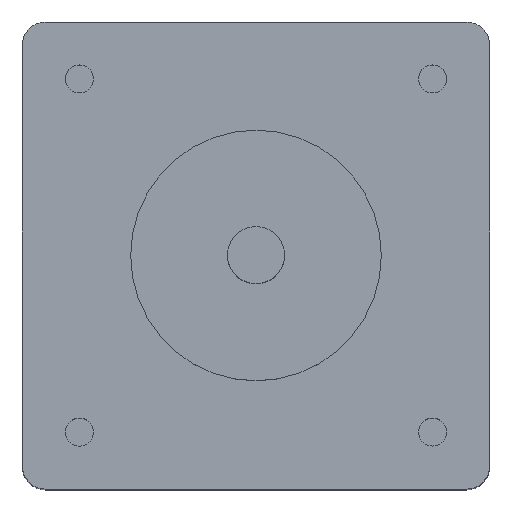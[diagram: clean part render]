
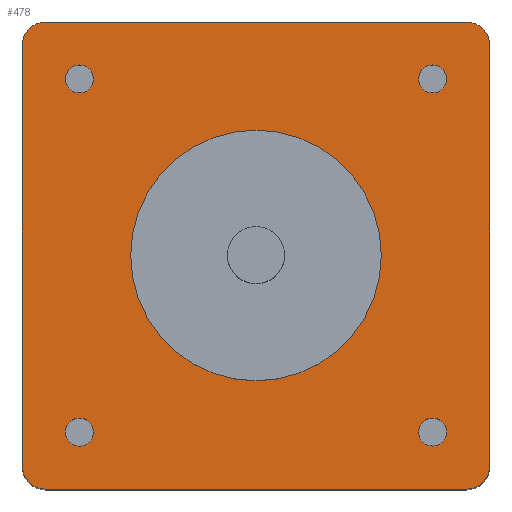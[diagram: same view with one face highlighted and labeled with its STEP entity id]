
A CAD part, top view. The second image highlights one B-rep face of the part: STEP entity #478.
In plain terms, the highlighted planar face has unit normal (0, 0, 1).
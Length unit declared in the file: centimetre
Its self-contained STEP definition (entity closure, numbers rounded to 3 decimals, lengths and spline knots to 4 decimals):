
#189=VERTEX_POINT('',#1763);
#190=VERTEX_POINT('',#1765);
#191=VERTEX_POINT('',#1769);
#192=VERTEX_POINT('',#1773);
#193=VERTEX_POINT('',#1777);
#195=VERTEX_POINT('',#1784);
#197=VERTEX_POINT('',#1790);
#199=VERTEX_POINT('',#1796);
#201=VERTEX_POINT('',#1802);
#205=VERTEX_POINT('',#1814);
#206=VERTEX_POINT('',#1818);
#207=VERTEX_POINT('',#1822);
#208=VERTEX_POINT('',#1826);
#234=EDGE_CURVE('',#189,#190,#609,.T.);
#237=EDGE_CURVE('',#191,#189,#670,.T.);
#239=EDGE_CURVE('',#192,#191,#610,.T.);
#241=EDGE_CURVE('',#193,#192,#673,.T.);
#243=EDGE_CURVE('',#195,#195,#612,.T.);
#245=EDGE_CURVE('',#197,#197,#614,.T.);
#247=EDGE_CURVE('',#199,#199,#616,.T.);
#249=EDGE_CURVE('',#201,#201,#618,.T.);
#253=EDGE_CURVE('',#205,#205,#622,.T.);
#254=EDGE_CURVE('',#190,#206,#674,.T.);
#256=EDGE_CURVE('',#206,#207,#623,.T.);
#258=EDGE_CURVE('',#207,#208,#677,.T.);
#260=EDGE_CURVE('',#208,#193,#624,.T.);
#352=ORIENTED_EDGE('',*,*,#243,.T.);
#353=ORIENTED_EDGE('',*,*,#245,.T.);
#354=ORIENTED_EDGE('',*,*,#247,.T.);
#355=ORIENTED_EDGE('',*,*,#249,.T.);
#356=ORIENTED_EDGE('',*,*,#253,.T.);
#357=ORIENTED_EDGE('',*,*,#239,.F.);
#358=ORIENTED_EDGE('',*,*,#241,.F.);
#359=ORIENTED_EDGE('',*,*,#260,.F.);
#360=ORIENTED_EDGE('',*,*,#258,.F.);
#361=ORIENTED_EDGE('',*,*,#256,.F.);
#362=ORIENTED_EDGE('',*,*,#254,.F.);
#363=ORIENTED_EDGE('',*,*,#234,.F.);
#364=ORIENTED_EDGE('',*,*,#237,.F.);
#401=EDGE_LOOP('',(#352));
#402=EDGE_LOOP('',(#353));
#403=EDGE_LOOP('',(#354));
#404=EDGE_LOOP('',(#355));
#405=EDGE_LOOP('',(#356));
#406=EDGE_LOOP('',(#357,#358,#359,#360,#361,#362,#363,#364));
#443=FACE_BOUND('',#401,.T.);
#444=FACE_BOUND('',#402,.T.);
#445=FACE_BOUND('',#403,.T.);
#446=FACE_BOUND('',#404,.T.);
#447=FACE_BOUND('',#405,.T.);
#448=FACE_BOUND('',#406,.T.);
#478=ADVANCED_FACE('',(#443,#444,#445,#446,#447,#448),#1323,.T.);
#609=CIRCLE('',#1211,0.2);
#610=CIRCLE('',#1214,0.2);
#612=CIRCLE('',#1219,0.123);
#614=CIRCLE('',#1223,0.123);
#616=CIRCLE('',#1227,0.123);
#618=CIRCLE('',#1231,0.123);
#622=CIRCLE('',#1239,1.1);
#623=CIRCLE('',#1243,0.2);
#624=CIRCLE('',#1246,0.2);
#670=LINE('',#1770,#1295);
#673=LINE('',#1778,#1298);
#674=LINE('',#1817,#1299);
#677=LINE('',#1825,#1302);
#1211=AXIS2_PLACEMENT_3D('',#1764,#1488,#1489);
#1214=AXIS2_PLACEMENT_3D('',#1774,#1497,#1498);
#1219=AXIS2_PLACEMENT_3D('',#1783,#1507,#1508);
#1223=AXIS2_PLACEMENT_3D('',#1789,#1514,#1515);
#1227=AXIS2_PLACEMENT_3D('',#1795,#1521,#1522);
#1231=AXIS2_PLACEMENT_3D('',#1801,#1528,#1529);
#1239=AXIS2_PLACEMENT_3D('',#1813,#1542,#1543);
#1243=AXIS2_PLACEMENT_3D('',#1821,#1550,#1551);
#1246=AXIS2_PLACEMENT_3D('',#1829,#1558,#1559);
#1247=AXIS2_PLACEMENT_3D('',#1830,#1560,$);
#1295=VECTOR('',#1493,1.);
#1298=VECTOR('',#1501,1.);
#1299=VECTOR('',#1546,1.);
#1302=VECTOR('',#1554,1.);
#1323=PLANE('',#1247);
#1488=DIRECTION('',(0.,0.,-1.));
#1489=DIRECTION('',(0.2,0.,0.));
#1493=DIRECTION('',(-1.,0.,0.));
#1497=DIRECTION('',(0.,0.,-1.));
#1498=DIRECTION('',(0.2,0.,0.));
#1501=DIRECTION('',(0.,-1.,0.));
#1507=DIRECTION('',(0.,0.,-1.));
#1508=DIRECTION('',(0.,0.123,0.));
#1514=DIRECTION('',(0.,0.,-1.));
#1515=DIRECTION('',(0.,0.123,0.));
#1521=DIRECTION('',(0.,0.,-1.));
#1522=DIRECTION('',(0.,0.123,0.));
#1528=DIRECTION('',(0.,0.,-1.));
#1529=DIRECTION('',(0.,0.123,0.));
#1542=DIRECTION('',(0.,0.,-1.));
#1543=DIRECTION('',(1.1,0.,0.));
#1546=DIRECTION('',(0.,1.,0.));
#1550=DIRECTION('',(0.,0.,-1.));
#1551=DIRECTION('',(0.2,0.,0.));
#1554=DIRECTION('',(1.,0.,0.));
#1558=DIRECTION('',(0.,0.,-1.));
#1559=DIRECTION('',(0.2,0.,0.));
#1560=DIRECTION('',(0.,0.,1.));
#1763=CARTESIAN_POINT('',(-3.9,0.,4.8));
#1764=CARTESIAN_POINT('',(-3.9,0.2,4.8));
#1765=CARTESIAN_POINT('',(-4.1,0.2,4.8));
#1769=CARTESIAN_POINT('',(-0.2,0.,4.8));
#1770=CARTESIAN_POINT('',(-3.9,0.,4.8));
#1773=CARTESIAN_POINT('',(0.,0.2,4.8));
#1774=CARTESIAN_POINT('',(-0.2,0.2,4.8));
#1777=CARTESIAN_POINT('',(0.,3.9,4.8));
#1778=CARTESIAN_POINT('',(0.,0.2,4.8));
#1783=CARTESIAN_POINT('',(-3.6,0.5,4.8));
#1784=CARTESIAN_POINT('',(-3.6,0.6229,4.8));
#1789=CARTESIAN_POINT('',(-0.5,0.5,4.8));
#1790=CARTESIAN_POINT('',(-0.5,0.623,4.8));
#1795=CARTESIAN_POINT('',(-0.5,3.6,4.8));
#1796=CARTESIAN_POINT('',(-0.5,3.723,4.8));
#1801=CARTESIAN_POINT('',(-3.5999,3.5999,4.8));
#1802=CARTESIAN_POINT('',(-3.5999,3.7229,4.8));
#1813=CARTESIAN_POINT('',(-2.05,2.05,4.8));
#1814=CARTESIAN_POINT('',(-0.95,2.05,4.8));
#1817=CARTESIAN_POINT('',(-4.1,3.9,4.8));
#1818=CARTESIAN_POINT('',(-4.1,3.9,4.8));
#1821=CARTESIAN_POINT('',(-3.9,3.9,4.8));
#1822=CARTESIAN_POINT('',(-3.9,4.1,4.8));
#1825=CARTESIAN_POINT('',(-0.2,4.1,4.8));
#1826=CARTESIAN_POINT('',(-0.2,4.1,4.8));
#1829=CARTESIAN_POINT('',(-0.2,3.9,4.8));
#1830=CARTESIAN_POINT('',(-2.05,2.05,4.8));
